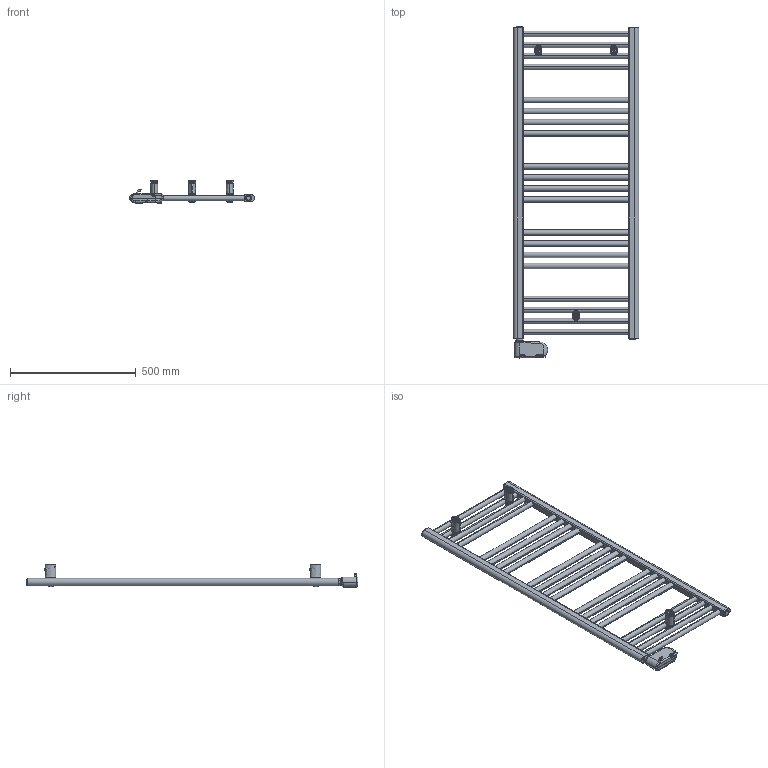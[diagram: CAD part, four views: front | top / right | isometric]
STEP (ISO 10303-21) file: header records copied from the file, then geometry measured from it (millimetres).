
FILE_DESCRIPTION((''),'2;1');
FILE_NAME('3581656100014_3D_SITO_ASM','2023-10-10T12:09:59',('PC132'),(''),'CREO PARAMETRIC BY PTC INC, 2023092','CREO PARAMETRIC BY PTC INC, 2023092','');
FILE_SCHEMA(('AUTOMOTIVE_DESIGN { 1 0 10303 214 1 1 1 1 }'));
Length unit declared in the file: millimetre
Products named in the file (17): 2551650500207_3D_SITO; BICCHIERE_PARETE; PERNO_SCORROVOLE; DADO_QUADRO_M5_X_GIUNTO; DADO_M6_X_GIUNTO; PERNO_SCORREVOLE_ASM; BASETTA_ANTERIORE; COPERTURA_BASETTA; VITE_CR_M5_16; VITE_CR_SV_M6_35; 1102001310058_ASM; 1010181240001; 1117000001004; 1035270000037_FRONT; 1035270000037_BACK; 1035270000060_ASM; 3581656100014_3D_SITO_ASM
Assembly tree (19 placements, depth 4):
  3581656100014_3D_SITO_ASM
    2551650500207_3D_SITO
    1102001310058_ASM  x3
      BICCHIERE_PARETE
      PERNO_SCORREVOLE_ASM
        PERNO_SCORROVOLE
        DADO_QUADRO_M5_X_GIUNTO
        DADO_M6_X_GIUNTO
      BASETTA_ANTERIORE
      COPERTURA_BASETTA
      VITE_CR_M5_16
      VITE_CR_SV_M6_35
    1010181240001  x2
    1117000001004
    1035270000060_ASM
      1035270000037_FRONT
      1035270000037_BACK
Bounding box: 500 x 1322.4 x 88.65 mm (x, y, z)
Volume: 6382821.9 mm3; surface area: 1048331.2 mm2
Topology: 32 solids, 45 shells, 5045 faces, 11080 edges, 6153 vertices
Faces by surface type: cylinder 1944, plane 895, torus 766, sphere 641, bspline 609, cone 136, extrusion 54
Entity records: 109330 total; most frequent: CARTESIAN_POINT 41942, DIRECTION 10160, ORIENTED_EDGE 8582, EDGE_CURVE 4304, PRESENTATION_STYLE_ASSIGNMENT 4250, STYLED_ITEM 4246, CURVE_STYLE 4229, AXIS2_PLACEMENT_3D 4215
